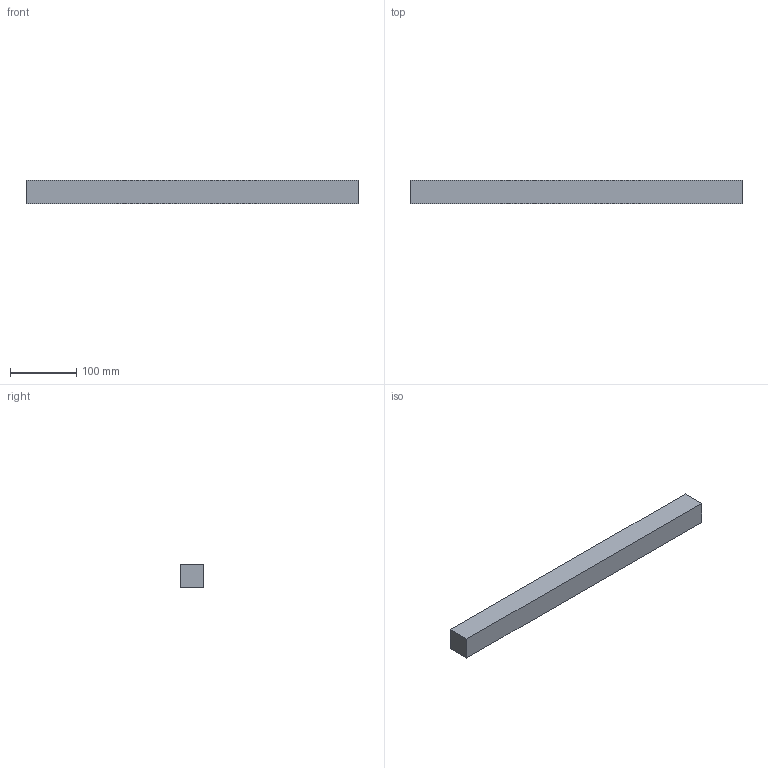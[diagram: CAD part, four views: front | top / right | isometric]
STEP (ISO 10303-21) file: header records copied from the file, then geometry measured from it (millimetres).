
FILE_DESCRIPTION(('FreeCAD Model'),'2;1');
FILE_NAME('/Users/benjaminscott/Documents/Fab Academy/2. Computer Aided Design/FreeCAD/smart_window_bar.step','2020-02-11T17:43:13',('Author'),( ''),'Open CASCADE STEP processor 7.3','FreeCAD','Unknown');
FILE_SCHEMA(('AUTOMOTIVE_DESIGN { 1 0 10303 214 1 1 1 1 }'));
Length unit declared in the file: millimetre
Products named in the file (1): Bar
Bounding box: 500 x 35 x 35 mm (x, y, z)
Volume: 612500 mm3; surface area: 72450 mm2
Topology: 1 solids, 1 shells, 6 faces, 12 edges, 8 vertices
Faces by surface type: plane 6
Entity records: 333 total; most frequent: CARTESIAN_POINT 51, DIRECTION 50, LINE 36, VECTOR 36, ORIENTED_EDGE 24, PCURVE 24, DEFINITIONAL_REPRESENTATION 24, EDGE_CURVE 12
